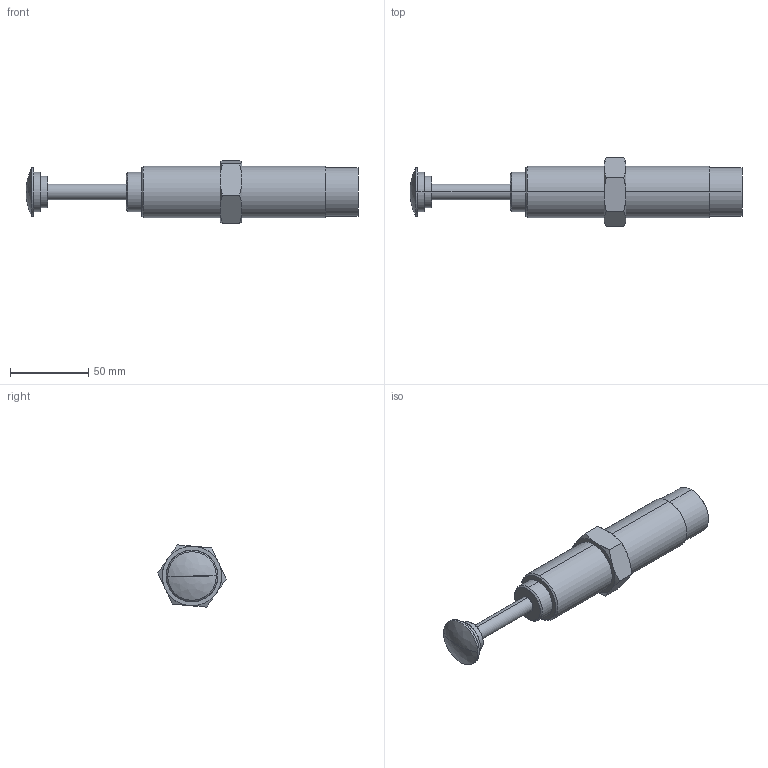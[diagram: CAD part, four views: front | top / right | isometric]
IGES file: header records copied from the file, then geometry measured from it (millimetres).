
Start section: SolidWorks IGES file using analytic representation for surfaces
Global section: file name: C:\Users\Sam Lin\Desktop\48\FSA-3350CD.IGS; native system: SolidWorks 2013; preprocessor: SolidWorks 2013; author: Sam Lin; date: 160317.152807; units: metre
Bounding box: 212 x 43.7 x 39.82 mm (x, y, z)
Surface area: 24273.6 mm2 (no closed solid volume)
Topology: 0 solids, 0 shells, 49 faces, 1084 edges, 1083 vertices
Faces by surface type: bspline 27, revolution 22
